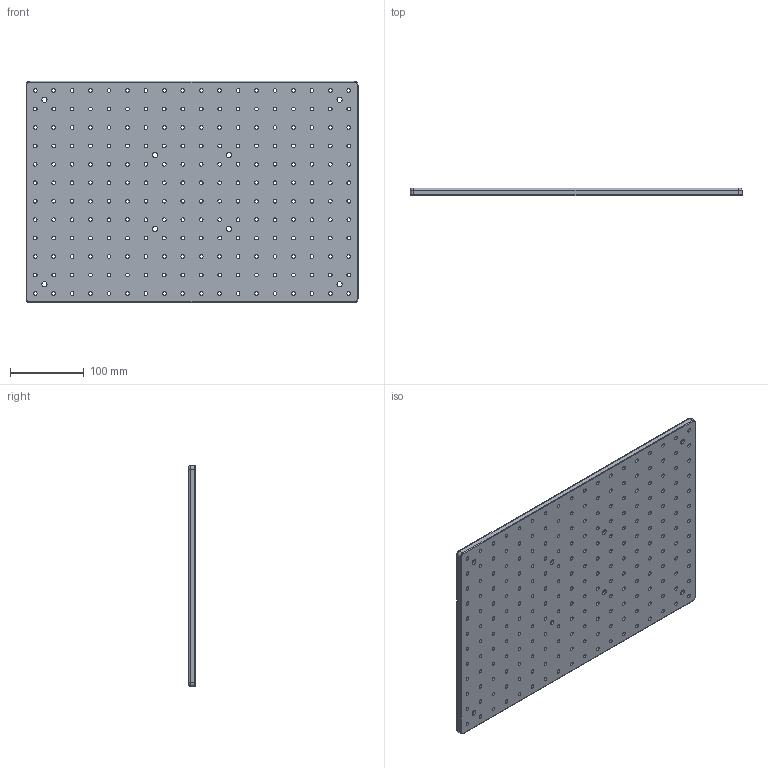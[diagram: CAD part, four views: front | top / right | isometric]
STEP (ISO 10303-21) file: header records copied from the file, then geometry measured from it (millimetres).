
FILE_DESCRIPTION (( 'STEP AP203' ), '1' );
FILE_NAME ('M-SAB-3045-10P.step', '2017-01-10T01:17:44', ( '¦K¬P' ), ( '' ), 'SwSTEP 2.0', 'SolidWorks 2012', '' );
FILE_SCHEMA (( 'CONFIG_CONTROL_DESIGN' ));
Length unit declared in the file: millimetre
Products named in the file (1): M-SAB-3045-10P
Bounding box: 450 x 9.8 x 300 mm (x, y, z)
Volume: 1272121.8 mm3; surface area: 308528.1 mm2
Topology: 1 solids, 1 shells, 266 faces, 752 edges, 496 vertices
Faces by surface type: cylinder 244, plane 14, torus 8
Full cylindrical faces by diameter (mm): 5 x216, 7 x8, 11 x8
Entity records: 8717 total; most frequent: DIRECTION 1550, CARTESIAN_POINT 1283, ORIENTED_EDGE 1040, EDGE_LOOP 954, AXIS2_PLACEMENT_3D 763, EDGE_CURVE 520, FACE_OUTER_BOUND 498, CIRCLE 496
